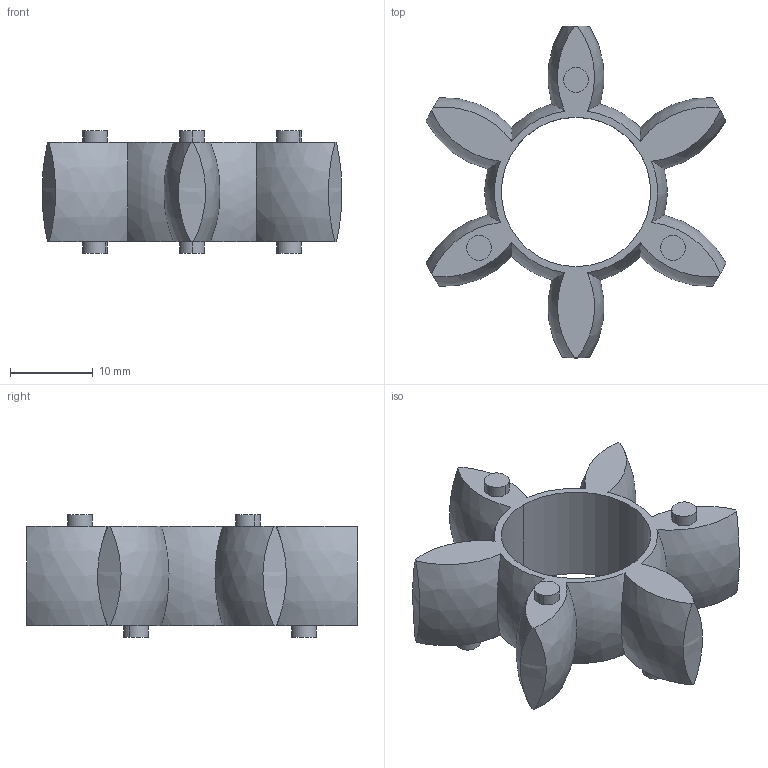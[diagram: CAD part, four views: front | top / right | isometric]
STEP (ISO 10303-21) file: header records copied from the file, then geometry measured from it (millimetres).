
FILE_DESCRIPTION((''),'2;1');
FILE_NAME('020191000045_INT','2015-05-04T',('Rathmann'),(''),'PRO/ENGINEER BY PARAMETRIC TECHNOLOGY CORPORATION, 2013230','PRO/ENGINEER BY PARAMETRIC TECHNOLOGY CORPORATION, 2013230','');
FILE_SCHEMA(('CONFIG_CONTROL_DESIGN'));
Length unit declared in the file: millimetre
Products named in the file (1): 020191000045_INT
Bounding box: 36.16 x 40 x 14.8 mm (x, y, z)
Volume: 4727.6 mm3; surface area: 3393.7 mm2
Topology: 1 solids, 1 shells, 46 faces, 121 edges, 90 vertices
Faces by surface type: bspline 24, cylinder 14, plane 8
Entity records: 2252 total; most frequent: CARTESIAN_POINT 1230, ORIENTED_EDGE 228, DIRECTION 147, EDGE_CURVE 114, VERTEX_POINT 76, AXIS2_PLACEMENT_3D 63, B_SPLINE_CURVE_WITH_KNOTS 60, EDGE_LOOP 54
